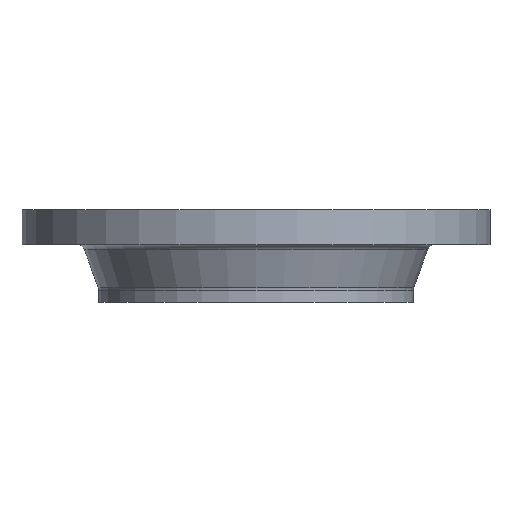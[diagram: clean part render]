
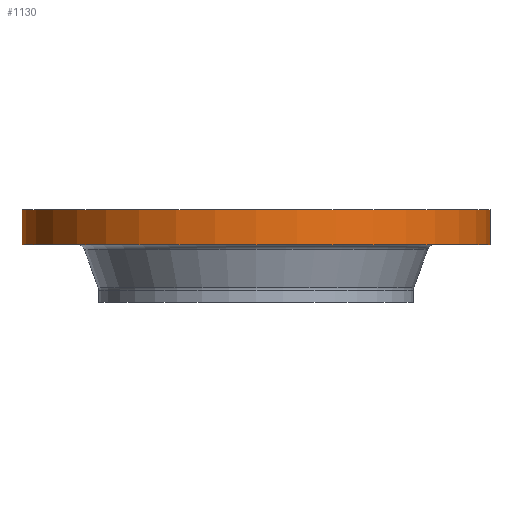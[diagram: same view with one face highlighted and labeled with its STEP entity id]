
A CAD part, front view. The second image highlights one B-rep face of the part: STEP entity #1130.
In plain terms, the highlighted cylindrical face has radius 377.5 mm (diameter 755 mm), a partial arc.
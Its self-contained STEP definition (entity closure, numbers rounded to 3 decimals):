
#12 = DIRECTION ( 'NONE',  ( 0., 0., 1. ) ) ;
#77 = EDGE_CURVE ( 'NONE', #922, #1721, #1039, .T. ) ;
#160 = DIRECTION ( 'NONE',  ( 0., 0., 1. ) ) ;
#183 = VERTEX_POINT ( 'NONE', #761 ) ;
#201 = CARTESIAN_POINT ( 'NONE',  ( 0., 0., -57. ) ) ;
#213 = EDGE_CURVE ( 'NONE', #183, #1721, #955, .T. ) ;
#250 = DIRECTION ( 'NONE',  ( 0., 0., 1. ) ) ;
#278 = CARTESIAN_POINT ( 'NONE',  ( -377.5, 0., -57. ) ) ;
#283 = FACE_OUTER_BOUND ( 'NONE', #1767, .T. ) ;
#313 = CIRCLE ( 'NONE', #314, 377.5 ) ;
#314 = AXIS2_PLACEMENT_3D ( 'NONE', #201, #788, #1429 ) ;
#458 = LINE ( 'NONE', #945, #512 ) ;
#512 = VECTOR ( 'NONE', #1542, 1000. ) ;
#583 = ORIENTED_EDGE ( 'NONE', *, *, #1156, .F. ) ;
#586 = ORIENTED_EDGE ( 'NONE', *, *, #1222, .T. ) ;
#588 = ORIENTED_EDGE ( 'NONE', *, *, #77, .T. ) ;
#589 = ORIENTED_EDGE ( 'NONE', *, *, #213, .F. ) ;
#633 = DIRECTION ( 'NONE',  ( 1., 0., 0. ) ) ;
#644 = VECTOR ( 'NONE', #250, 1000. ) ;
#761 = CARTESIAN_POINT ( 'NONE',  ( -377.5, 0., 0. ) ) ;
#764 = DIRECTION ( 'NONE',  ( 1., 0., 0. ) ) ;
#788 = DIRECTION ( 'NONE',  ( 0., 0., 1. ) ) ;
#823 = VERTEX_POINT ( 'NONE', #278 ) ;
#842 = AXIS2_PLACEMENT_3D ( 'NONE', #1527, #160, #764 ) ;
#920 = CYLINDRICAL_SURFACE ( 'NONE', #842, 377.5 ) ;
#922 = VERTEX_POINT ( 'NONE', #1396 ) ;
#945 = CARTESIAN_POINT ( 'NONE',  ( -377.5, 0., -150. ) ) ;
#955 = CIRCLE ( 'NONE', #1669, 377.5 ) ;
#1039 = LINE ( 'NONE', #1609, #644 ) ;
#1130 = ADVANCED_FACE ( 'NONE', ( #283 ), #920, .T. ) ;
#1156 = EDGE_CURVE ( 'NONE', #823, #183, #458, .T. ) ;
#1222 = EDGE_CURVE ( 'NONE', #823, #922, #313, .T. ) ;
#1384 = CARTESIAN_POINT ( 'NONE',  ( 0., 0., 0. ) ) ;
#1396 = CARTESIAN_POINT ( 'NONE',  ( 377.5, 0., -57. ) ) ;
#1429 = DIRECTION ( 'NONE',  ( 1., 0., 0. ) ) ;
#1527 = CARTESIAN_POINT ( 'NONE',  ( 0., 0., -150. ) ) ;
#1542 = DIRECTION ( 'NONE',  ( 0., 0., 1. ) ) ;
#1609 = CARTESIAN_POINT ( 'NONE',  ( 377.5, 0., -150. ) ) ;
#1669 = AXIS2_PLACEMENT_3D ( 'NONE', #1384, #12, #633 ) ;
#1713 = CARTESIAN_POINT ( 'NONE',  ( 377.5, 0., 0. ) ) ;
#1721 = VERTEX_POINT ( 'NONE', #1713 ) ;
#1767 = EDGE_LOOP ( 'NONE', ( #583, #586, #588, #589 ) ) ;
